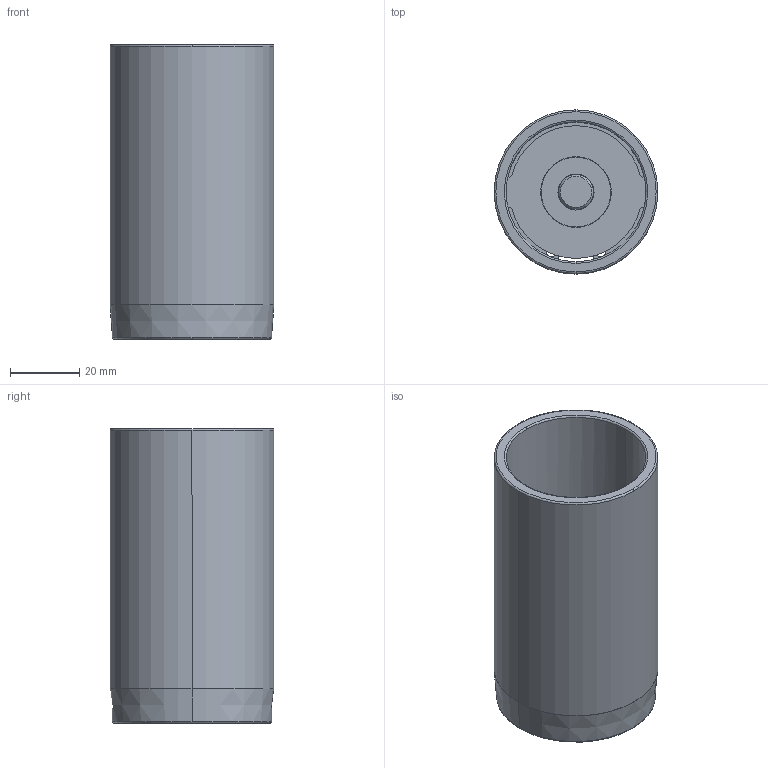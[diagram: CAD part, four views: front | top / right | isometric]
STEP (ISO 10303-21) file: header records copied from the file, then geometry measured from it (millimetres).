
FILE_DESCRIPTION((''),'2;1');
FILE_NAME('C12_040_085.stp','2009-01-28T11:33:44',(''),(''),'Mechanical Desktop 2009','Mechanical Desktop 2009',', , ');
FILE_SCHEMA(('CONFIG_CONTROL_DESIGN'));
Length unit declared in the file: millimetre
Products named in the file (2): Product; blmdl1
Assembly tree (1 placements, depth 2):
  Product
    blmdl1
Bounding box: 47.25 x 47.25 x 85 mm (x, y, z)
Volume: 45877.5 mm3; surface area: 30824.4 mm2
Topology: 5 solids, 5 shells, 79 faces, 200 edges, 134 vertices
Faces by surface type: cylinder 34, plane 29, torus 10, cone 6
Entity records: 2585 total; most frequent: DIRECTION 480, CARTESIAN_POINT 435, ORIENTED_EDGE 400, AXIS2_PLACEMENT_3D 203, EDGE_CURVE 200, VERTEX_POINT 134, CIRCLE 122, EDGE_LOOP 92
